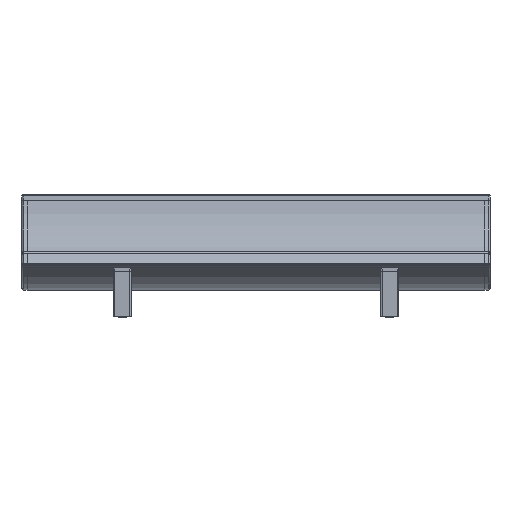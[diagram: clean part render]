
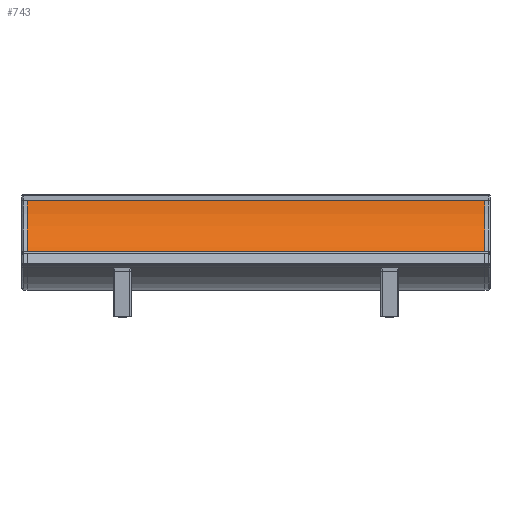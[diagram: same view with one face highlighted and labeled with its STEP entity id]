
A CAD part, front view. The second image highlights one B-rep face of the part: STEP entity #743.
In plain terms, the highlighted cylindrical face has radius 470 mm (diameter 940 mm), a partial arc.
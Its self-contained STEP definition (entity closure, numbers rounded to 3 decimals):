
#26=(
BOUNDED_CURVE()
B_SPLINE_CURVE(1,(#17165,#17166),.UNSPECIFIED.,.F.,.F.)
B_SPLINE_CURVE_WITH_KNOTS((2,2),(-2740.,0.),.UNSPECIFIED.)
CURVE()
GEOMETRIC_REPRESENTATION_ITEM()
RATIONAL_B_SPLINE_CURVE((1.,1.))
REPRESENTATION_ITEM('')
);
#743=ADVANCED_FACE('',(#1267),#7568,.F.);
#1267=FACE_OUTER_BOUND('',#1791,.T.);
#1791=EDGE_LOOP('',(#3724,#3725,#3726,#3727));
#3724=ORIENTED_EDGE('',*,*,#4901,.F.);
#3725=ORIENTED_EDGE('',*,*,#4902,.F.);
#3726=ORIENTED_EDGE('',*,*,#4897,.F.);
#3727=ORIENTED_EDGE('',*,*,#4900,.F.);
#4897=EDGE_CURVE('',#7045,#7046,#6374,.T.);
#4900=EDGE_CURVE('',#7048,#7045,#5388,.T.);
#4901=EDGE_CURVE('',#7049,#7048,#26,.T.);
#4902=EDGE_CURVE('',#7046,#7049,#5389,.T.);
#5388=TRIMMED_CURVE($,#5792,(#17163),(#17164),.T.,.CARTESIAN.);
#5389=TRIMMED_CURVE($,#5793,(#17168),(#17169),.T.,.CARTESIAN.);
#5792=CIRCLE('',#8392,470.);
#5793=CIRCLE('',#8393,470.);
#6374=B_SPLINE_CURVE_WITH_KNOTS('',1,(#17156,#17157),.UNSPECIFIED.,.F.,
 .F.,(2,2),(0.,2740.),.UNSPECIFIED.);
#7045=VERTEX_POINT('',#17147);
#7046=VERTEX_POINT('',#17148);
#7048=VERTEX_POINT('',#17150);
#7049=VERTEX_POINT('',#17151);
#7568=CYLINDRICAL_SURFACE('',#8387,470.);
#8387=AXIS2_PLACEMENT_3D('',#17141,#9630,$);
#8392=AXIS2_PLACEMENT_3D($,#17162,#9635,#9636);
#8393=AXIS2_PLACEMENT_3D($,#17167,#9637,#9638);
#9630=DIRECTION('',(-1.,0.,0.));
#9635=DIRECTION('',(1.,0.,0.));
#9636=DIRECTION('',(0.,-0.637,-0.771));
#9637=DIRECTION('',(-1.,0.,0.));
#9638=DIRECTION('',(0.,0.996,-0.095));
#17141=CARTESIAN_POINT('',(0.,305.778,735.));
#17147=CARTESIAN_POINT('',(-1370.,773.668,690.521));
#17148=CARTESIAN_POINT('',(1370.,773.668,690.521));
#17150=CARTESIAN_POINT('',(-1370.,6.37,372.708));
#17151=CARTESIAN_POINT('',(1370.,6.37,372.708));
#17156=CARTESIAN_POINT('',(-1370.,773.668,690.521));
#17157=CARTESIAN_POINT('',(1370.,773.668,690.521));
#17162=CARTESIAN_POINT('',(-1370.,305.778,735.));
#17163=CARTESIAN_POINT('',(-1370.,6.37,372.708));
#17164=CARTESIAN_POINT('',(-1370.,773.668,690.521));
#17165=CARTESIAN_POINT('',(1370.,6.37,372.708));
#17166=CARTESIAN_POINT('',(-1370.,6.37,372.708));
#17167=CARTESIAN_POINT('',(1370.,305.778,735.));
#17168=CARTESIAN_POINT('',(1370.,773.668,690.521));
#17169=CARTESIAN_POINT('',(1370.,6.37,372.708));
